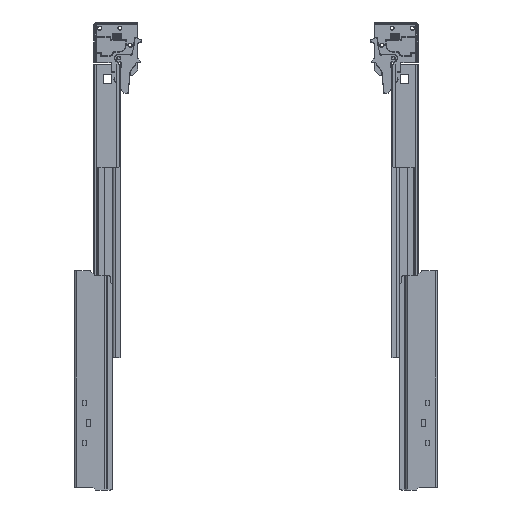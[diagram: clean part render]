
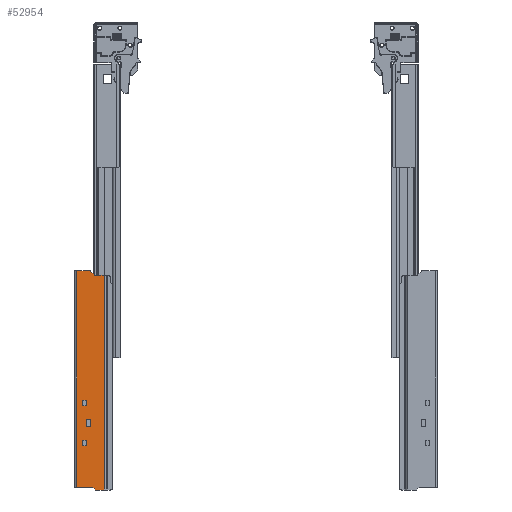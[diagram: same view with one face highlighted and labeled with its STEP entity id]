
A CAD part, front view. The second image highlights one B-rep face of the part: STEP entity #52954.
In plain terms, the highlighted planar face has unit normal (0, -1, 0).
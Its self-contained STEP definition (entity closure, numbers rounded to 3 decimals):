
#4357=FACE_BOUND('',#12709,.T.);
#4358=FACE_BOUND('',#12710,.T.);
#4359=FACE_BOUND('',#12711,.T.);
#6009=CIRCLE('',#56424,2.);
#6010=CIRCLE('',#56425,2.);
#9746=FACE_OUTER_BOUND('',#12708,.T.);
#12708=EDGE_LOOP('',(#33175,#33176,#33177,#33178,#33179,#33180,#33181,#33182,
#33183,#33184));
#12709=EDGE_LOOP('',(#33185,#33186,#33187,#33188));
#12710=EDGE_LOOP('',(#33189,#33190,#33191,#33192));
#12711=EDGE_LOOP('',(#33193,#33194,#33195,#33196));
#16375=LINE('',#76872,#18395);
#16379=LINE('',#76880,#18399);
#16382=LINE('',#76886,#18402);
#16385=LINE('',#76891,#18405);
#16387=LINE('',#76897,#18407);
#16391=LINE('',#76905,#18411);
#16394=LINE('',#76911,#18414);
#16397=LINE('',#76916,#18417);
#16399=LINE('',#76922,#18419);
#16403=LINE('',#76930,#18423);
#16406=LINE('',#76936,#18426);
#16409=LINE('',#76941,#18429);
#16411=LINE('',#76947,#18431);
#16426=LINE('',#76995,#18446);
#16434=LINE('',#77015,#18454);
#16435=LINE('',#77019,#18455);
#16436=LINE('',#77021,#18456);
#16437=LINE('',#77023,#18457);
#16438=LINE('',#77027,#18458);
#16439=LINE('',#77030,#18459);
#18395=VECTOR('',#62546,6.);
#18399=VECTOR('',#62552,3.5);
#18402=VECTOR('',#62557,6.);
#18405=VECTOR('',#62562,3.5);
#18407=VECTOR('',#62568,6.);
#18411=VECTOR('',#62574,3.5);
#18414=VECTOR('',#62579,6.);
#18417=VECTOR('',#62584,3.5);
#18419=VECTOR('',#62590,8.);
#18423=VECTOR('',#62596,5.);
#18426=VECTOR('',#62601,8.);
#18429=VECTOR('',#62606,5.);
#18431=VECTOR('',#62612,4.243);
#18446=VECTOR('',#62647,18.);
#18454=VECTOR('',#62667,239.);
#18455=VECTOR('',#62672,9.5);
#18456=VECTOR('',#62673,237.);
#18457=VECTOR('',#62674,9.672);
#18458=VECTOR('',#62677,5.414);
#18459=VECTOR('',#62680,14.172);
#20415=VERTEX_POINT('',#76870);
#20416=VERTEX_POINT('',#76871);
#20419=VERTEX_POINT('',#76879);
#20421=VERTEX_POINT('',#76885);
#20423=VERTEX_POINT('',#76895);
#20424=VERTEX_POINT('',#76896);
#20427=VERTEX_POINT('',#76904);
#20429=VERTEX_POINT('',#76910);
#20431=VERTEX_POINT('',#76920);
#20432=VERTEX_POINT('',#76921);
#20435=VERTEX_POINT('',#76929);
#20437=VERTEX_POINT('',#76935);
#20439=VERTEX_POINT('',#76945);
#20440=VERTEX_POINT('',#76946);
#20463=VERTEX_POINT('',#76994);
#20469=VERTEX_POINT('',#77014);
#20470=VERTEX_POINT('',#77018);
#20471=VERTEX_POINT('',#77020);
#20472=VERTEX_POINT('',#77022);
#20473=VERTEX_POINT('',#77024);
#20474=VERTEX_POINT('',#77026);
#20475=VERTEX_POINT('',#77028);
#25101=EDGE_CURVE('',#20415,#20416,#16375,.T.);
#25105=EDGE_CURVE('',#20416,#20419,#16379,.T.);
#25108=EDGE_CURVE('',#20419,#20421,#16382,.T.);
#25111=EDGE_CURVE('',#20421,#20415,#16385,.T.);
#25113=EDGE_CURVE('',#20423,#20424,#16387,.T.);
#25117=EDGE_CURVE('',#20424,#20427,#16391,.T.);
#25120=EDGE_CURVE('',#20427,#20429,#16394,.T.);
#25123=EDGE_CURVE('',#20429,#20423,#16397,.T.);
#25125=EDGE_CURVE('',#20431,#20432,#16399,.T.);
#25129=EDGE_CURVE('',#20432,#20435,#16403,.T.);
#25132=EDGE_CURVE('',#20435,#20437,#16406,.T.);
#25135=EDGE_CURVE('',#20437,#20431,#16409,.T.);
#25137=EDGE_CURVE('',#20439,#20440,#16411,.T.);
#25161=EDGE_CURVE('',#20463,#20439,#16426,.T.);
#25171=EDGE_CURVE('',#20469,#20463,#16434,.T.);
#25173=EDGE_CURVE('',#20470,#20440,#16435,.T.);
#25174=EDGE_CURVE('',#20471,#20470,#16436,.T.);
#25175=EDGE_CURVE('',#20471,#20472,#16437,.T.);
#25176=EDGE_CURVE('',#20473,#20472,#6009,.T.);
#25177=EDGE_CURVE('',#20473,#20474,#16438,.T.);
#25178=EDGE_CURVE('',#20475,#20474,#6010,.T.);
#25179=EDGE_CURVE('',#20469,#20475,#16439,.T.);
#33175=ORIENTED_EDGE('',*,*,#25161,.T.);
#33176=ORIENTED_EDGE('',*,*,#25137,.T.);
#33177=ORIENTED_EDGE('',*,*,#25173,.F.);
#33178=ORIENTED_EDGE('',*,*,#25174,.F.);
#33179=ORIENTED_EDGE('',*,*,#25175,.T.);
#33180=ORIENTED_EDGE('',*,*,#25176,.F.);
#33181=ORIENTED_EDGE('',*,*,#25177,.T.);
#33182=ORIENTED_EDGE('',*,*,#25178,.F.);
#33183=ORIENTED_EDGE('',*,*,#25179,.F.);
#33184=ORIENTED_EDGE('',*,*,#25171,.T.);
#33185=ORIENTED_EDGE('',*,*,#25101,.T.);
#33186=ORIENTED_EDGE('',*,*,#25105,.T.);
#33187=ORIENTED_EDGE('',*,*,#25108,.T.);
#33188=ORIENTED_EDGE('',*,*,#25111,.T.);
#33189=ORIENTED_EDGE('',*,*,#25113,.T.);
#33190=ORIENTED_EDGE('',*,*,#25117,.T.);
#33191=ORIENTED_EDGE('',*,*,#25120,.T.);
#33192=ORIENTED_EDGE('',*,*,#25123,.T.);
#33193=ORIENTED_EDGE('',*,*,#25125,.T.);
#33194=ORIENTED_EDGE('',*,*,#25129,.T.);
#33195=ORIENTED_EDGE('',*,*,#25132,.T.);
#33196=ORIENTED_EDGE('',*,*,#25135,.T.);
#49030=PLANE('',#56423);
#52954=ADVANCED_FACE('',(#9746,#4357,#4358,#4359),#49030,.T.);
#56423=AXIS2_PLACEMENT_3D('',#77017,#62670,#62671);
#56424=AXIS2_PLACEMENT_3D('',#77025,#62675,#62676);
#56425=AXIS2_PLACEMENT_3D('',#77029,#62678,#62679);
#62546=DIRECTION('',(0.,0.,1.));
#62552=DIRECTION('',(1.,0.,0.));
#62557=DIRECTION('',(0.,0.,-1.));
#62562=DIRECTION('',(-1.,0.,0.));
#62568=DIRECTION('',(0.,0.,1.));
#62574=DIRECTION('',(1.,0.,0.));
#62579=DIRECTION('',(0.,0.,-1.));
#62584=DIRECTION('',(-1.,0.,0.));
#62590=DIRECTION('',(0.,0.,1.));
#62596=DIRECTION('',(1.,0.,0.));
#62601=DIRECTION('',(0.,0.,-1.));
#62606=DIRECTION('',(-1.,0.,0.));
#62612=DIRECTION('',(0.707,0.,-0.707));
#62647=DIRECTION('',(1.,0.,0.));
#62667=DIRECTION('',(0.,0.,-1.));
#62670=DIRECTION('center_axis',(0.,-1.,0.));
#62671=DIRECTION('ref_axis',(-1.,0.,0.));
#62672=DIRECTION('',(-1.,0.,0.));
#62673=DIRECTION('',(0.,0.,-1.));
#62674=DIRECTION('',(-1.,0.,0.));
#62675=DIRECTION('center_axis',(0.,-1.,0.));
#62676=DIRECTION('ref_axis',(-0.383,0.,-0.924));
#62677=DIRECTION('',(-0.707,0.,0.707));
#62678=DIRECTION('center_axis',(0.,1.,0.));
#62679=DIRECTION('ref_axis',(0.383,0.,0.924));
#62680=DIRECTION('',(1.,0.,0.));
#76870=CARTESIAN_POINT('',(9.,0.,-149.));
#76871=CARTESIAN_POINT('',(9.,0.,-143.));
#76872=CARTESIAN_POINT('',(9.,0.,-71.5));
#76879=CARTESIAN_POINT('',(12.5,0.,-143.));
#76880=CARTESIAN_POINT('',(22.5,0.,-143.));
#76885=CARTESIAN_POINT('',(12.5,0.,-149.));
#76886=CARTESIAN_POINT('',(12.5,0.,-74.5));
#76891=CARTESIAN_POINT('',(20.75,0.,-149.));
#76895=CARTESIAN_POINT('',(9.,0.,-193.));
#76896=CARTESIAN_POINT('',(9.,0.,-187.));
#76897=CARTESIAN_POINT('',(9.,0.,-93.5));
#76904=CARTESIAN_POINT('',(12.5,0.,-187.));
#76905=CARTESIAN_POINT('',(22.5,0.,-187.));
#76910=CARTESIAN_POINT('',(12.5,0.,-193.));
#76911=CARTESIAN_POINT('',(12.5,0.,-96.5));
#76916=CARTESIAN_POINT('',(20.75,0.,-193.));
#76920=CARTESIAN_POINT('',(12.5,0.,-172.));
#76921=CARTESIAN_POINT('',(12.5,0.,-164.));
#76922=CARTESIAN_POINT('',(12.5,0.,-82.));
#76929=CARTESIAN_POINT('',(17.5,0.,-164.));
#76930=CARTESIAN_POINT('',(25.,0.,-164.));
#76935=CARTESIAN_POINT('',(17.5,0.,-172.));
#76936=CARTESIAN_POINT('',(17.5,0.,-86.));
#76941=CARTESIAN_POINT('',(22.5,0.,-172.));
#76945=CARTESIAN_POINT('',(20.,0.,-239.));
#76946=CARTESIAN_POINT('',(23.,0.,-242.));
#76947=CARTESIAN_POINT('',(-36.625,0.,-182.375));
#76994=CARTESIAN_POINT('',(2.,0.,-239.));
#76995=CARTESIAN_POINT('',(16.25,0.,-239.));
#77014=CARTESIAN_POINT('',(2.,0.,0.));
#77015=CARTESIAN_POINT('',(2.,0.,0.));
#77017=CARTESIAN_POINT('Origin',(32.5,0.,0.));
#77018=CARTESIAN_POINT('',(32.5,0.,-242.));
#77019=CARTESIAN_POINT('',(2.,0.,-242.));
#77020=CARTESIAN_POINT('',(32.5,0.,-5.));
#77021=CARTESIAN_POINT('',(32.5,0.,0.));
#77022=CARTESIAN_POINT('',(22.828,0.,-5.));
#77023=CARTESIAN_POINT('',(35.75,0.,-5.));
#77024=CARTESIAN_POINT('',(21.414,0.,-4.414));
#77025=CARTESIAN_POINT('Origin',(22.828,0.,
-3.));
#77026=CARTESIAN_POINT('',(17.586,0.,-0.586));
#77027=CARTESIAN_POINT('',(23.375,0.,-6.375));
#77028=CARTESIAN_POINT('',(16.172,0.,0.));
#77029=CARTESIAN_POINT('Origin',(16.172,0.,
-2.));
#77030=CARTESIAN_POINT('',(2.,0.,0.));
